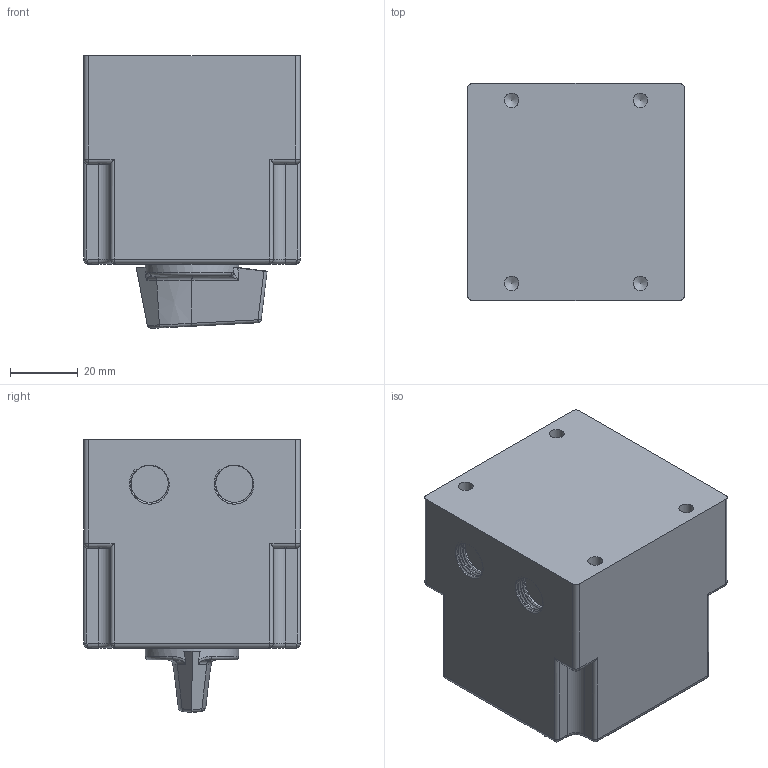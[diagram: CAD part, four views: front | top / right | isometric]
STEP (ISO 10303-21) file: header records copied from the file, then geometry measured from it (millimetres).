
FILE_DESCRIPTION(/* description */ (''),/* implementation_level */ '2;1');
FILE_NAME(/* name */ '4G10-PK_IP55_1_lub_2_korpusy.stp',/* time_stamp */ '2021-07-22T08:11:01+02:00',/* author */ (''),/* organization */ (''),/* preprocessor_version */ 'ST-DEVELOPER v18.1',/* originating_system */ 'SIEMENS PLM Software NX 1965',/* authorisation */ '');
FILE_SCHEMA (('AUTOMOTIVE_DESIGN { 1 0 10303 214 3 1 1 1 }'));
Length unit declared in the file: millimetre
Products named in the file (1): 4G10-PK_IP55_1_lub_2_korpusy_stp
Bounding box: 64 x 64 x 80.45 mm (x, y, z)
Volume: 248546.9 mm3; surface area: 27037.9 mm2
Topology: 1 solids, 1 shells, 322 faces, 836 edges, 519 vertices
Faces by surface type: cylinder 128, plane 111, bspline 51, torus 16, cone 10, sphere 6
Full cylindrical faces by diameter (mm): 2.9 x24, 3.5 x4, 4.3 x4, 7 x4, 11 x16, 27.5 x1
Entity records: 17270 total; most frequent: CARTESIAN_POINT 11199, ORIENTED_EDGE 1306, DIRECTION 1133, EDGE_CURVE 653, AXIS2_PLACEMENT_3D 454, VERTEX_POINT 423, EDGE_LOOP 328, ADVANCED_FACE 282
